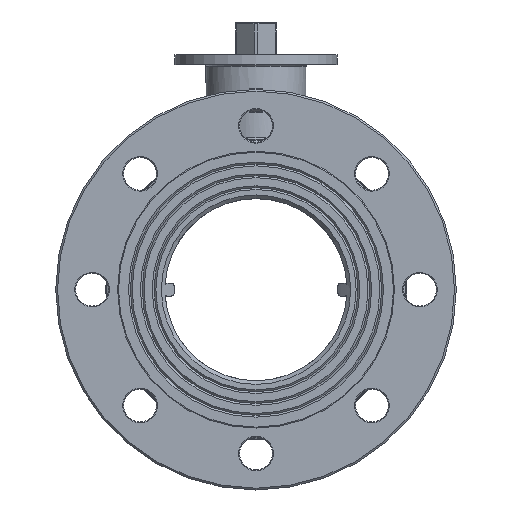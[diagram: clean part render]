
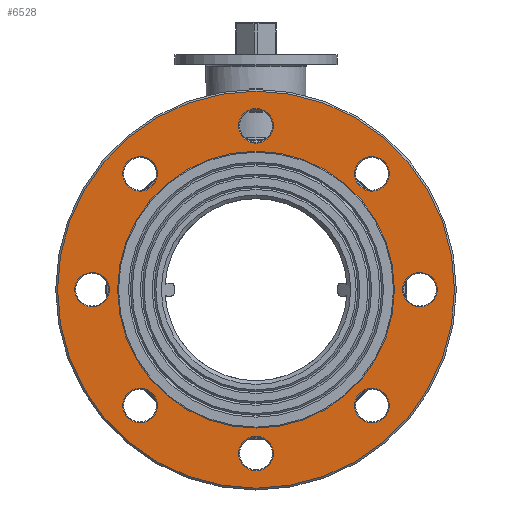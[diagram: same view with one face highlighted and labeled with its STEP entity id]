
A CAD part, left-side view. The second image highlights one B-rep face of the part: STEP entity #6528.
In plain terms, the highlighted planar face has unit normal (-1, 0, 0) as drawn and (0, 0, 1) by its records, which use the part's own axes.
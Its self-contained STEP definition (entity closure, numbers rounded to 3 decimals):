
#1050=PLANE('',#7256);
#1566=FACE_BOUND('',#2571,.T.);
#1567=FACE_BOUND('',#2572,.T.);
#1568=FACE_BOUND('',#2573,.T.);
#1569=FACE_BOUND('',#2574,.T.);
#1570=FACE_BOUND('',#2575,.T.);
#1571=FACE_BOUND('',#2576,.T.);
#1572=FACE_BOUND('',#2577,.T.);
#1573=FACE_BOUND('',#2578,.T.);
#1574=FACE_BOUND('',#2579,.T.);
#1995=FACE_OUTER_BOUND('',#2570,.T.);
#2570=EDGE_LOOP('',(#5874));
#2571=EDGE_LOOP('',(#5875));
#2572=EDGE_LOOP('',(#5876));
#2573=EDGE_LOOP('',(#5877));
#2574=EDGE_LOOP('',(#5878));
#2575=EDGE_LOOP('',(#5879));
#2576=EDGE_LOOP('',(#5880));
#2577=EDGE_LOOP('',(#5881));
#2578=EDGE_LOOP('',(#5882));
#2579=EDGE_LOOP('',(#5883));
#2984=CIRCLE('',#7255,9.5);
#2985=CIRCLE('',#7257,109.);
#2986=CIRCLE('',#7258,9.5);
#2987=CIRCLE('',#7259,9.5);
#2988=CIRCLE('',#7260,9.5);
#2989=CIRCLE('',#7261,9.5);
#2990=CIRCLE('',#7262,68.);
#2991=CIRCLE('',#7263,9.5);
#2992=CIRCLE('',#7264,9.5);
#2993=CIRCLE('',#7265,9.5);
#3541=VERTEX_POINT('',#12725);
#3542=VERTEX_POINT('',#12728);
#3543=VERTEX_POINT('',#12730);
#3544=VERTEX_POINT('',#12732);
#3545=VERTEX_POINT('',#12734);
#3546=VERTEX_POINT('',#12736);
#3547=VERTEX_POINT('',#12738);
#3548=VERTEX_POINT('',#12740);
#3549=VERTEX_POINT('',#12742);
#3550=VERTEX_POINT('',#12744);
#4344=EDGE_CURVE('',#3541,#3541,#2984,.T.);
#4345=EDGE_CURVE('',#3542,#3542,#2985,.T.);
#4346=EDGE_CURVE('',#3543,#3543,#2986,.T.);
#4347=EDGE_CURVE('',#3544,#3544,#2987,.T.);
#4348=EDGE_CURVE('',#3545,#3545,#2988,.T.);
#4349=EDGE_CURVE('',#3546,#3546,#2989,.T.);
#4350=EDGE_CURVE('',#3547,#3547,#2990,.T.);
#4351=EDGE_CURVE('',#3548,#3548,#2991,.T.);
#4352=EDGE_CURVE('',#3549,#3549,#2992,.T.);
#4353=EDGE_CURVE('',#3550,#3550,#2993,.T.);
#5874=ORIENTED_EDGE('',*,*,#4345,.F.);
#5875=ORIENTED_EDGE('',*,*,#4346,.F.);
#5876=ORIENTED_EDGE('',*,*,#4347,.F.);
#5877=ORIENTED_EDGE('',*,*,#4348,.F.);
#5878=ORIENTED_EDGE('',*,*,#4349,.F.);
#5879=ORIENTED_EDGE('',*,*,#4350,.F.);
#5880=ORIENTED_EDGE('',*,*,#4351,.F.);
#5881=ORIENTED_EDGE('',*,*,#4352,.F.);
#5882=ORIENTED_EDGE('',*,*,#4353,.F.);
#5883=ORIENTED_EDGE('',*,*,#4344,.F.);
#6528=ADVANCED_FACE('',(#1995,#1566,#1567,#1568,#1569,#1570,#1571,#1572,
#1573,#1574),#1050,.F.);
#7255=AXIS2_PLACEMENT_3D('',#12726,#8916,#8917);
#7256=AXIS2_PLACEMENT_3D('',#12727,#8918,#8919);
#7257=AXIS2_PLACEMENT_3D('',#12729,#8920,#8921);
#7258=AXIS2_PLACEMENT_3D('',#12731,#8922,#8923);
#7259=AXIS2_PLACEMENT_3D('',#12733,#8924,#8925);
#7260=AXIS2_PLACEMENT_3D('',#12735,#8926,#8927);
#7261=AXIS2_PLACEMENT_3D('',#12737,#8928,#8929);
#7262=AXIS2_PLACEMENT_3D('',#12739,#8930,#8931);
#7263=AXIS2_PLACEMENT_3D('',#12741,#8932,#8933);
#7264=AXIS2_PLACEMENT_3D('',#12743,#8934,#8935);
#7265=AXIS2_PLACEMENT_3D('',#12745,#8936,#8937);
#8916=DIRECTION('center_axis',(0.,0.,1.));
#8917=DIRECTION('ref_axis',(1.,0.,0.));
#8918=DIRECTION('center_axis',(0.,0.,-1.));
#8919=DIRECTION('ref_axis',(-1.,0.,0.));
#8920=DIRECTION('center_axis',(0.,0.,-1.));
#8921=DIRECTION('ref_axis',(-1.,0.,0.));
#8922=DIRECTION('center_axis',(0.,0.,1.));
#8923=DIRECTION('ref_axis',(1.,0.,0.));
#8924=DIRECTION('center_axis',(0.,0.,1.));
#8925=DIRECTION('ref_axis',(1.,0.,0.));
#8926=DIRECTION('center_axis',(0.,0.,1.));
#8927=DIRECTION('ref_axis',(1.,0.,0.));
#8928=DIRECTION('center_axis',(0.,0.,1.));
#8929=DIRECTION('ref_axis',(1.,0.,0.));
#8930=DIRECTION('center_axis',(0.,0.,1.));
#8931=DIRECTION('ref_axis',(-1.,0.,0.));
#8932=DIRECTION('center_axis',(0.,0.,1.));
#8933=DIRECTION('ref_axis',(1.,0.,0.));
#8934=DIRECTION('center_axis',(0.,0.,1.));
#8935=DIRECTION('ref_axis',(1.,0.,0.));
#8936=DIRECTION('center_axis',(0.,0.,1.));
#8937=DIRECTION('ref_axis',(1.,0.,0.));
#12725=CARTESIAN_POINT('',(-99.5,0.,19.));
#12726=CARTESIAN_POINT('Origin',(-90.,0.,19.));
#12727=CARTESIAN_POINT('Origin',(0.,0.,19.));
#12728=CARTESIAN_POINT('',(109.,0.,19.));
#12729=CARTESIAN_POINT('Origin',(0.,0.,19.));
#12730=CARTESIAN_POINT('',(-73.14,-63.64,19.));
#12731=CARTESIAN_POINT('Origin',(-63.64,-63.64,19.));
#12732=CARTESIAN_POINT('',(-9.5,-90.,19.));
#12733=CARTESIAN_POINT('Origin',(0.,-90.,19.));
#12734=CARTESIAN_POINT('',(54.14,-63.64,19.));
#12735=CARTESIAN_POINT('Origin',(63.64,-63.64,19.));
#12736=CARTESIAN_POINT('',(80.5,0.,19.));
#12737=CARTESIAN_POINT('Origin',(90.,0.,19.));
#12738=CARTESIAN_POINT('',(68.,0.,19.));
#12739=CARTESIAN_POINT('Origin',(0.,0.,19.));
#12740=CARTESIAN_POINT('',(54.14,63.64,19.));
#12741=CARTESIAN_POINT('Origin',(63.64,63.64,19.));
#12742=CARTESIAN_POINT('',(-9.5,90.,19.));
#12743=CARTESIAN_POINT('Origin',(0.,90.,19.));
#12744=CARTESIAN_POINT('',(-73.14,63.64,19.));
#12745=CARTESIAN_POINT('Origin',(-63.64,63.64,19.));
